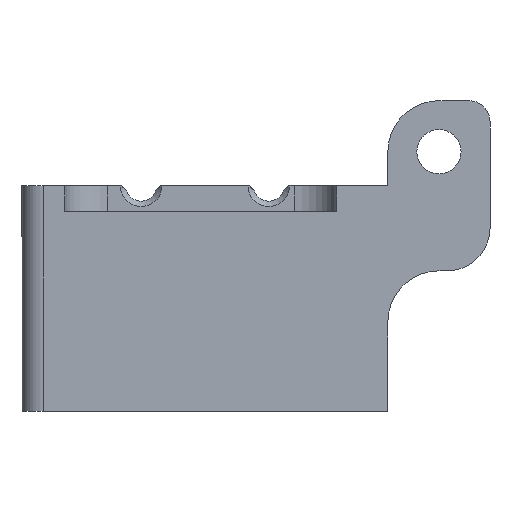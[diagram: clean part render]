
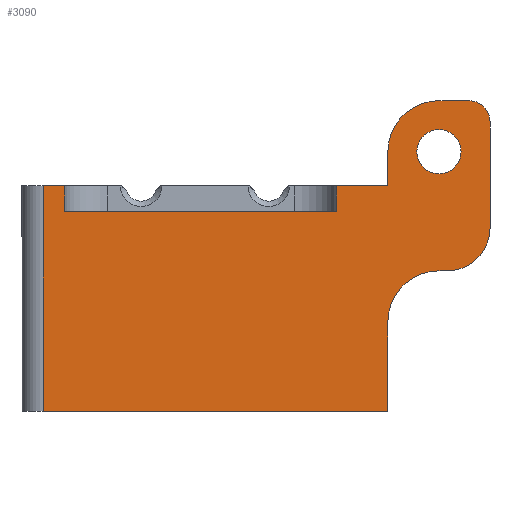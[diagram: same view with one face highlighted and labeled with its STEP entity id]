
A CAD part, left-side view. The second image highlights one B-rep face of the part: STEP entity #3090.
In plain terms, the highlighted planar face has unit normal (-1, 0, 0).
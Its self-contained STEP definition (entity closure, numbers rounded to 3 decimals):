
#37 = LINE ( 'NONE', #204, #2610 ) ;
#52 = ORIENTED_EDGE ( 'NONE', *, *, #591, .F. ) ;
#64 = LINE ( 'NONE', #550, #2636 ) ;
#104 = EDGE_CURVE ( 'NONE', #2466, #2385, #411, .T. ) ;
#122 = CARTESIAN_POINT ( 'NONE',  ( -28., -26., 4. ) ) ;
#124 = EDGE_CURVE ( 'NONE', #1363, #1239, #1151, .T. ) ;
#153 = DIRECTION ( 'NONE',  ( 0., -1., 0. ) ) ;
#173 = VERTEX_POINT ( 'NONE', #2347 ) ;
#178 = DIRECTION ( 'NONE',  ( -1., 0., 0. ) ) ;
#185 = DIRECTION ( 'NONE',  ( 0., -1., 0. ) ) ;
#191 = CARTESIAN_POINT ( 'NONE',  ( -28., 23., 0. ) ) ;
#204 = CARTESIAN_POINT ( 'NONE',  ( -28., -32., -10. ) ) ;
#232 = CARTESIAN_POINT ( 'NONE',  ( -28., -20., -26.5 ) ) ;
#234 = FACE_OUTER_BOUND ( 'NONE', #3109, .T. ) ;
#239 = CARTESIAN_POINT ( 'NONE',  ( -28., 18., -3. ) ) ;
#252 = ORIENTED_EDGE ( 'NONE', *, *, #1655, .F. ) ;
#292 = DIRECTION ( 'NONE',  ( 0., -1., 0. ) ) ;
#302 = FACE_BOUND ( 'NONE', #1802, .T. ) ;
#305 = VECTOR ( 'NONE', #292, 1000. ) ;
#330 = CARTESIAN_POINT ( 'NONE',  ( -28., -26., -16. ) ) ;
#332 = VECTOR ( 'NONE', #3017, 1000. ) ;
#338 = EDGE_CURVE ( 'NONE', #3103, #2899, #523, .T. ) ;
#365 = DIRECTION ( 'NONE',  ( 0., 0., -1. ) ) ;
#376 = CARTESIAN_POINT ( 'NONE',  ( -28., -26., -10. ) ) ;
#392 = CARTESIAN_POINT ( 'NONE',  ( -28., 23., -26.5 ) ) ;
#405 = CARTESIAN_POINT ( 'NONE',  ( -28., -29.5, 7.5 ) ) ;
#411 = CIRCLE ( 'NONE', #1600, 5. ) ;
#430 = DIRECTION ( 'NONE',  ( 0., 0., -1. ) ) ;
#468 = CARTESIAN_POINT ( 'NONE',  ( -28., -20., -16. ) ) ;
#519 = AXIS2_PLACEMENT_3D ( 'NONE', #122, #1871, #365 ) ;
#523 = CIRCLE ( 'NONE', #3010, 2.5 ) ;
#539 = CARTESIAN_POINT ( 'NONE',  ( -28., -27., -5. ) ) ;
#547 = EDGE_CURVE ( 'NONE', #949, #635, #64, .T. ) ;
#550 = CARTESIAN_POINT ( 'NONE',  ( -28., -20., 10. ) ) ;
#560 = CARTESIAN_POINT ( 'NONE',  ( -28., -29.5, 10. ) ) ;
#584 = DIRECTION ( 'NONE',  ( 0., -1., 0. ) ) ;
#591 = EDGE_CURVE ( 'NONE', #2994, #2113, #2557, .T. ) ;
#611 = CIRCLE ( 'NONE', #1489, 2.6 ) ;
#628 = ORIENTED_EDGE ( 'NONE', *, *, #104, .T. ) ;
#633 = ORIENTED_EDGE ( 'NONE', *, *, #338, .T. ) ;
#634 = DIRECTION ( 'NONE',  ( 0., 0., 1. ) ) ;
#635 = VERTEX_POINT ( 'NONE', #702 ) ;
#688 = VECTOR ( 'NONE', #2108, 1000. ) ;
#702 = CARTESIAN_POINT ( 'NONE',  ( -28., -20., 0. ) ) ;
#706 = ORIENTED_EDGE ( 'NONE', *, *, #1058, .T. ) ;
#710 = CARTESIAN_POINT ( 'NONE',  ( -28., -26., 6.6 ) ) ;
#753 = EDGE_CURVE ( 'NONE', #1363, #3045, #2023, .T. ) ;
#775 = CARTESIAN_POINT ( 'NONE',  ( -28., -32., 10. ) ) ;
#776 = CARTESIAN_POINT ( 'NONE',  ( -28., -20., -10. ) ) ;
#792 = ORIENTED_EDGE ( 'NONE', *, *, #2904, .T. ) ;
#794 = ORIENTED_EDGE ( 'NONE', *, *, #124, .T. ) ;
#803 = VECTOR ( 'NONE', #3200, 1000. ) ;
#807 = ORIENTED_EDGE ( 'NONE', *, *, #1672, .T. ) ;
#904 = CARTESIAN_POINT ( 'NONE',  ( -28., -14., 0. ) ) ;
#906 = VERTEX_POINT ( 'NONE', #2169 ) ;
#927 = VERTEX_POINT ( 'NONE', #2674 ) ;
#932 = EDGE_CURVE ( 'NONE', #975, #906, #611, .T. ) ;
#938 = CARTESIAN_POINT ( 'NONE',  ( -28., -26., 4. ) ) ;
#949 = VERTEX_POINT ( 'NONE', #1447 ) ;
#965 = CIRCLE ( 'NONE', #519, 2.6 ) ;
#975 = VERTEX_POINT ( 'NONE', #710 ) ;
#1015 = CARTESIAN_POINT ( 'NONE',  ( -28., -14., -3. ) ) ;
#1058 = EDGE_CURVE ( 'NONE', #927, #2354, #1474, .T. ) ;
#1094 = AXIS2_PLACEMENT_3D ( 'NONE', #392, #1673, #185 ) ;
#1107 = CARTESIAN_POINT ( 'NONE',  ( -28., 20.5, 0. ) ) ;
#1151 = LINE ( 'NONE', #1228, #1662 ) ;
#1175 = DIRECTION ( 'NONE',  ( 0., -1., 0. ) ) ;
#1178 = DIRECTION ( 'NONE',  ( 0., 0., -1. ) ) ;
#1228 = CARTESIAN_POINT ( 'NONE',  ( -28., 20.5, -26.5 ) ) ;
#1239 = VERTEX_POINT ( 'NONE', #3032 ) ;
#1257 = CARTESIAN_POINT ( 'NONE',  ( -28., -27., -10. ) ) ;
#1266 = VECTOR ( 'NONE', #634, 1000. ) ;
#1352 = EDGE_CURVE ( 'NONE', #906, #975, #965, .T. ) ;
#1363 = VERTEX_POINT ( 'NONE', #1107 ) ;
#1376 = VERTEX_POINT ( 'NONE', #376 ) ;
#1387 = DIRECTION ( 'NONE',  ( -1., 0., 0. ) ) ;
#1399 = VECTOR ( 'NONE', #2274, 1000. ) ;
#1423 = PLANE ( 'NONE',  #1094 ) ;
#1447 = CARTESIAN_POINT ( 'NONE',  ( -28., -20., 4. ) ) ;
#1456 = EDGE_CURVE ( 'NONE', #173, #949, #1902, .T. ) ;
#1464 = DIRECTION ( 'NONE',  ( 0., -1., 0. ) ) ;
#1474 = LINE ( 'NONE', #232, #803 ) ;
#1482 = LINE ( 'NONE', #776, #1399 ) ;
#1489 = AXIS2_PLACEMENT_3D ( 'NONE', #938, #2689, #1178 ) ;
#1519 = DIRECTION ( 'NONE',  ( 0., -1., 0. ) ) ;
#1567 = EDGE_CURVE ( 'NONE', #2385, #3103, #37, .T. ) ;
#1590 = CARTESIAN_POINT ( 'NONE',  ( -28., 18., -3. ) ) ;
#1600 = AXIS2_PLACEMENT_3D ( 'NONE', #539, #2040, #1519 ) ;
#1655 = EDGE_CURVE ( 'NONE', #2113, #2695, #2149, .T. ) ;
#1662 = VECTOR ( 'NONE', #2485, 1000. ) ;
#1667 = CARTESIAN_POINT ( 'NONE',  ( -28., -26., 4. ) ) ;
#1672 = EDGE_CURVE ( 'NONE', #1376, #2466, #1482, .T. ) ;
#1673 = DIRECTION ( 'NONE',  ( -1., 0., 0. ) ) ;
#1697 = ORIENTED_EDGE ( 'NONE', *, *, #1456, .T. ) ;
#1740 = VECTOR ( 'NONE', #1175, 1000. ) ;
#1744 = LINE ( 'NONE', #775, #332 ) ;
#1802 = EDGE_LOOP ( 'NONE', ( #2449, #2461 ) ) ;
#1871 = DIRECTION ( 'NONE',  ( 1., 0., 0. ) ) ;
#1902 = CIRCLE ( 'NONE', #2365, 6. ) ;
#1926 = DIRECTION ( 'NONE',  ( 0., -1., 0. ) ) ;
#1954 = DIRECTION ( 'NONE',  ( 0., 0., 1. ) ) ;
#2023 = LINE ( 'NONE', #2595, #688 ) ;
#2034 = ORIENTED_EDGE ( 'NONE', *, *, #2599, .T. ) ;
#2040 = DIRECTION ( 'NONE',  ( -1., 0., 0. ) ) ;
#2070 = VECTOR ( 'NONE', #2504, 1000. ) ;
#2083 = DIRECTION ( 'NONE',  ( 1., 0., 0. ) ) ;
#2108 = DIRECTION ( 'NONE',  ( 0., -1., 0. ) ) ;
#2112 = ORIENTED_EDGE ( 'NONE', *, *, #2508, .T. ) ;
#2113 = VERTEX_POINT ( 'NONE', #2279 ) ;
#2129 = CARTESIAN_POINT ( 'NONE',  ( -28., 18., -3. ) ) ;
#2132 = EDGE_CURVE ( 'NONE', #1239, #927, #2225, .T. ) ;
#2149 = LINE ( 'NONE', #1015, #2070 ) ;
#2169 = CARTESIAN_POINT ( 'NONE',  ( -28., -26., 1.4 ) ) ;
#2186 = CARTESIAN_POINT ( 'NONE',  ( -28., -32., 7.5 ) ) ;
#2203 = ORIENTED_EDGE ( 'NONE', *, *, #753, .F. ) ;
#2207 = ORIENTED_EDGE ( 'NONE', *, *, #547, .T. ) ;
#2225 = LINE ( 'NONE', #2290, #305 ) ;
#2235 = CARTESIAN_POINT ( 'NONE',  ( -28., -32., -5. ) ) ;
#2274 = DIRECTION ( 'NONE',  ( 0., -1., 0. ) ) ;
#2279 = CARTESIAN_POINT ( 'NONE',  ( -28., -14., -3. ) ) ;
#2290 = CARTESIAN_POINT ( 'NONE',  ( -28., 23., -26.5 ) ) ;
#2340 = AXIS2_PLACEMENT_3D ( 'NONE', #330, #2083, #584 ) ;
#2347 = CARTESIAN_POINT ( 'NONE',  ( -28., -26., 10. ) ) ;
#2354 = VERTEX_POINT ( 'NONE', #468 ) ;
#2365 = AXIS2_PLACEMENT_3D ( 'NONE', #1667, #178, #1926 ) ;
#2374 = CARTESIAN_POINT ( 'NONE',  ( -28., 18., 0. ) ) ;
#2385 = VERTEX_POINT ( 'NONE', #2235 ) ;
#2401 = LINE ( 'NONE', #191, #1740 ) ;
#2449 = ORIENTED_EDGE ( 'NONE', *, *, #1352, .T. ) ;
#2461 = ORIENTED_EDGE ( 'NONE', *, *, #932, .T. ) ;
#2466 = VERTEX_POINT ( 'NONE', #1257 ) ;
#2485 = DIRECTION ( 'NONE',  ( 0., 0., -1. ) ) ;
#2504 = DIRECTION ( 'NONE',  ( 0., 0., 1. ) ) ;
#2508 = EDGE_CURVE ( 'NONE', #2899, #173, #1744, .T. ) ;
#2514 = LINE ( 'NONE', #2129, #1266 ) ;
#2557 = LINE ( 'NONE', #239, #3209 ) ;
#2591 = CIRCLE ( 'NONE', #2340, 6. ) ;
#2595 = CARTESIAN_POINT ( 'NONE',  ( -28., 23., 0. ) ) ;
#2599 = EDGE_CURVE ( 'NONE', #2994, #3045, #2514, .T. ) ;
#2610 = VECTOR ( 'NONE', #1954, 1000. ) ;
#2618 = ORIENTED_EDGE ( 'NONE', *, *, #2132, .T. ) ;
#2636 = VECTOR ( 'NONE', #430, 1000. ) ;
#2674 = CARTESIAN_POINT ( 'NONE',  ( -28., -20., -26.5 ) ) ;
#2689 = DIRECTION ( 'NONE',  ( 1., 0., 0. ) ) ;
#2695 = VERTEX_POINT ( 'NONE', #904 ) ;
#2727 = EDGE_CURVE ( 'NONE', #2695, #635, #2401, .T. ) ;
#2899 = VERTEX_POINT ( 'NONE', #560 ) ;
#2904 = EDGE_CURVE ( 'NONE', #2354, #1376, #2591, .T. ) ;
#2994 = VERTEX_POINT ( 'NONE', #1590 ) ;
#3007 = ORIENTED_EDGE ( 'NONE', *, *, #2727, .F. ) ;
#3010 = AXIS2_PLACEMENT_3D ( 'NONE', #405, #1387, #153 ) ;
#3017 = DIRECTION ( 'NONE',  ( 0., 1., 0. ) ) ;
#3032 = CARTESIAN_POINT ( 'NONE',  ( -28., 20.5, -26.5 ) ) ;
#3045 = VERTEX_POINT ( 'NONE', #2374 ) ;
#3090 = ADVANCED_FACE ( 'NONE', ( #302, #234 ), #1423, .T. ) ;
#3103 = VERTEX_POINT ( 'NONE', #2186 ) ;
#3109 = EDGE_LOOP ( 'NONE', ( #2203, #794, #2618, #706, #792, #807, #628, #3183, #633, #2112, #1697, #2207, #3007, #252, #52, #2034 ) ) ;
#3183 = ORIENTED_EDGE ( 'NONE', *, *, #1567, .T. ) ;
#3200 = DIRECTION ( 'NONE',  ( 0., 0., 1. ) ) ;
#3209 = VECTOR ( 'NONE', #1464, 1000. ) ;
